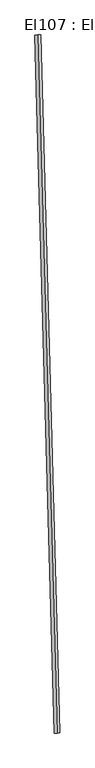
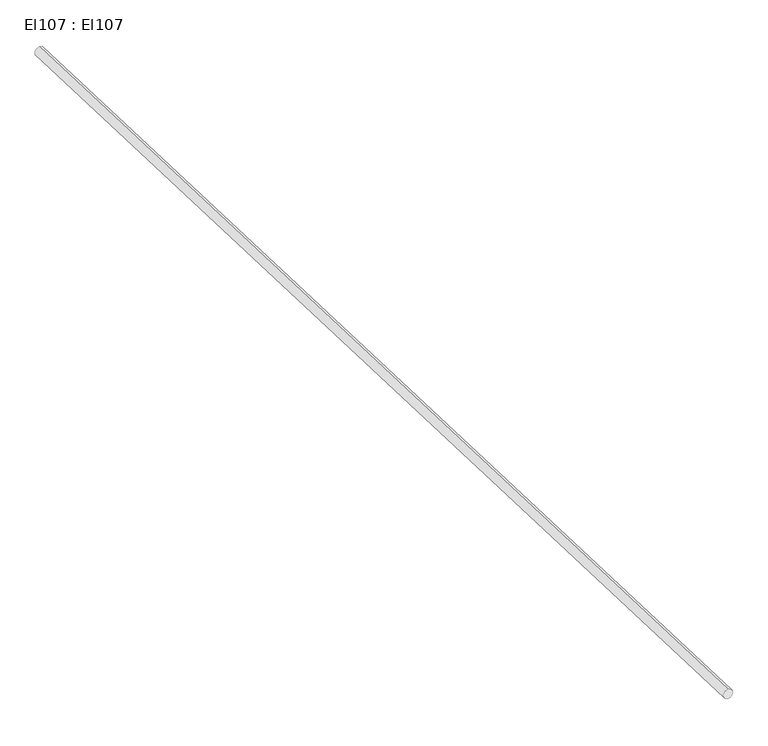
"""IFC4 building model written with IfcOpenShell, lengths in millimetres: cable carrier segment geometry, El107 : El107."""

from ifc_helpers import new_model, si_unit, point, frame, frame_2d, origin, place, context, project, spatial, circle_curve, trimmed, segment, composite_curve, outline, extrude, source, transform, mapped, element, save


def el107_el107_ee0da6d4(model_context):
    return source(origin(), model_context, "Body", "SweptSolid", [
        extrude(outline(composite_curve([segment(trimmed(circle_curve(frame_2d((0.0, -9.5)), 9.5), [point((0.0, -19.0))], [point((0.0, 0.0))], False, "CARTESIAN"), True, "CONTINUOUS"), segment(trimmed(circle_curve(frame_2d((0.0, -9.5)), 9.5), [point((0.0, 0.0))], [point((0.0, -19.0))], False, "CARTESIAN"), True, "CONTINUOUS")], self_intersect=False)), frame((31691.8686, 16816.06, 2959.5), z_axis=(-0.027402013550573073, 0.999624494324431, 0.0), x_axis=(-0.999624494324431, -0.027402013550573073, 0.0)), (0.0, 0.0, 1.0), 2231.12),
    ])


if __name__ == "__main__":
    model = new_model("IFC4")
    model_context = context("Model", 3, world=origin())
    ifc_project = project(units=[si_unit("LENGTHUNIT", "METRE", prefix="MILLI")], contexts=[model_context])
    site = spatial("IfcSite", under=ifc_project)
    building = spatial("IfcBuilding", under=site)
    placement = place(None, origin())
    el107_el107_shape = el107_el107_ee0da6d4(model_context)
    element("IfcCableCarrierSegment", 1, ObjectType="El107 : El107", at=placement, inside=building, context=model_context, shape_type="MappedRepresentation", body=[
        mapped(el107_el107_shape, transform((0.0, 0.0, 0.0), x_axis=(1.0, 0.0, 0.0), y_axis=(0.0, 1.0, 0.0), z_axis=(0.0, 0.0, 1.0))),
    ])
    save(model, "model.ifc")
